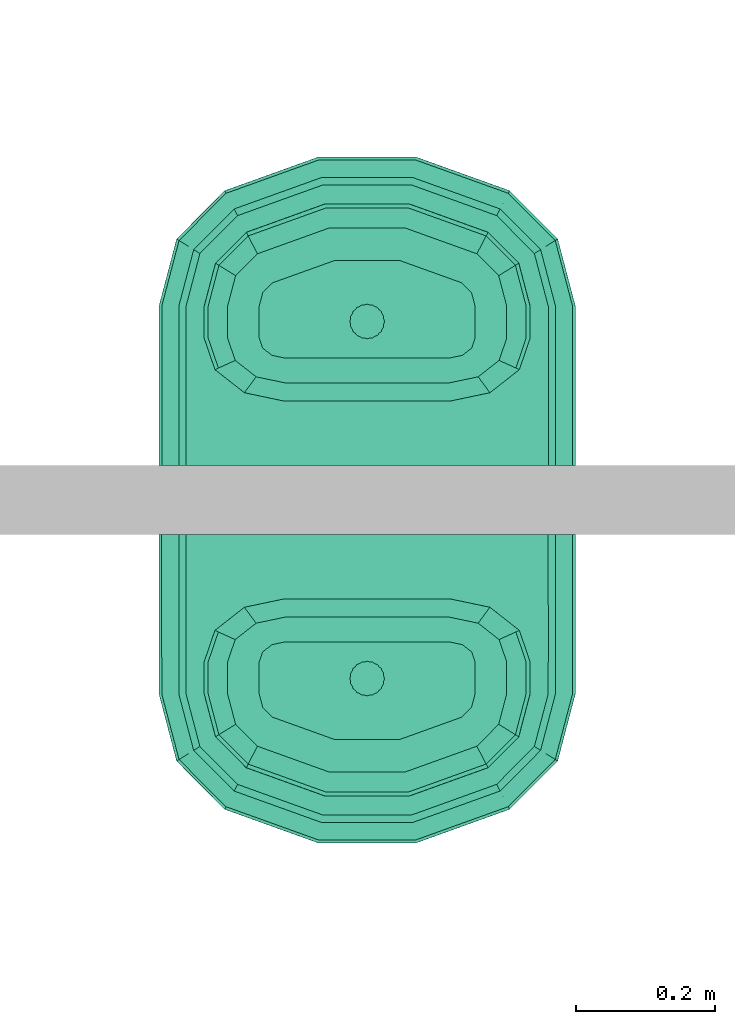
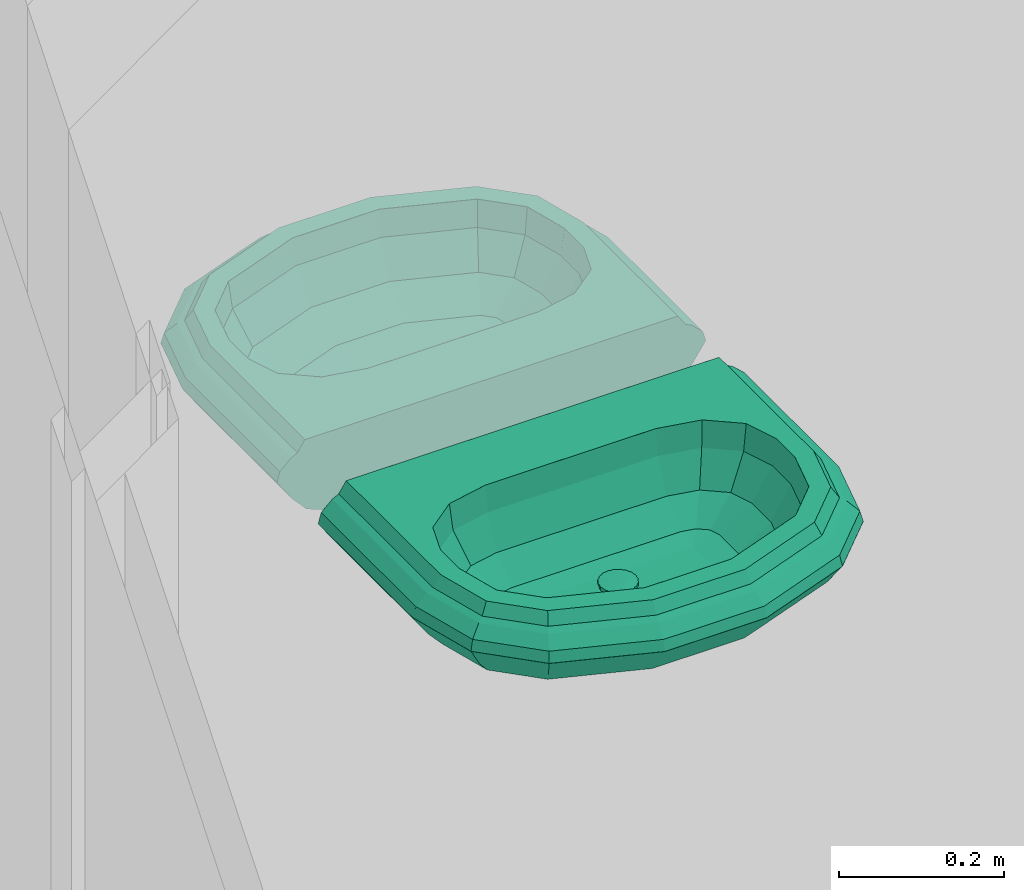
# One storey, part 45 of 48: 2 distribution flow elements.
"""IFC2X3 building model written with IfcOpenShell, lengths in millimetres."""

from ifc_helpers import new_model, entity, si_unit, converted_unit, derived_unit, money_unit, direction, frame, origin_with_axes, place, context, subcontext, project, spatial, open_shell, faceted_brep, surface_model, source, transform, mapped, type_object, element, save


model = new_model("IFC2X3")

# Units and contexts
model_context = context("Model", 3, precision=0.01, world=origin_with_axes(), true_north=direction((0.0, 1.0)))
body_context = subcontext(model_context, "Body", "Model", "MODEL_VIEW")
ifc_project = project(units=[si_unit("LENGTHUNIT", "METRE", prefix="MILLI"), si_unit("AREAUNIT", "SQUARE_METRE"), si_unit("VOLUMEUNIT", "CUBIC_METRE"), converted_unit("PLANEANGLEUNIT", "DEGREE", entity("IfcPlaneAngleMeasure", 0.0174532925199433), si_unit("PLANEANGLEUNIT", "RADIAN"), dimensions=[0, 0, 0, 0, 0, 0, 0]), money_unit("USD"), converted_unit("TIMEUNIT", "Year", entity("IfcTimeMeasure", 31557600.0), si_unit("TIMEUNIT", "SECOND"), dimensions=[0, 0, 1, 0, 0, 0, 0]), si_unit("MASSUNIT", "GRAM", prefix="KILO"), si_unit("THERMODYNAMICTEMPERATUREUNIT", "DEGREE_CELSIUS"), si_unit("LUMINOUSINTENSITYUNIT", "LUMEN"), si_unit("ENERGYUNIT", "JOULE", prefix="MEGA"), derived_unit("THERMALCONDUCTANCEUNIT", [(si_unit("POWERUNIT", "WATT"), 1), (si_unit("LENGTHUNIT", "METRE"), -1), (si_unit("THERMODYNAMICTEMPERATUREUNIT", "KELVIN"), -1)]), derived_unit("SPECIFICHEATCAPACITYUNIT", [(si_unit("ENERGYUNIT", "JOULE"), 1), (si_unit("MASSUNIT", "GRAM", prefix="KILO"), -1), (si_unit("THERMODYNAMICTEMPERATUREUNIT", "KELVIN"), -1)]), derived_unit("MASSDENSITYUNIT", [(si_unit("MASSUNIT", "GRAM", prefix="KILO"), 1), (si_unit("VOLUMEUNIT", "CUBIC_METRE"), -1)])], contexts=[model_context])

# Site, building, storey
site_placement = place(None, origin_with_axes())
site = spatial("IfcSite", under=ifc_project, at=site_placement, Name="Site", CompositionType="ELEMENT")
building_placement = place(site_placement, origin_with_axes())
building = spatial("IfcBuilding", under=site, at=building_placement, Name="Building", CompositionType="ELEMENT")
storey_placement = place(building_placement, frame((0.0, 0.0, 3300.0), z_axis=(0.0, 0.0, 1.0), x_axis=(1.0, 0.0, 0.0)))
storey = spatial("IfcBuildingStorey", under=building, at=storey_placement, Name="1 ETG", CompositionType="ELEMENT", Elevation=3300.0)

# Distribution flow elements
valve_type = type_object("IfcValveType", Name="Servant", PredefinedType="USERDEFINED")
shared_shape = source(origin_with_axes(), body_context, "Body", "SurfaceModel", [
    surface_model("IfcShellBasedSurfaceModel", [(-118.8260869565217, -229.090909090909, 880.0), (-155.5004347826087, -229.090909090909, 885.6030000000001), (-150.3400994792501, -248.7018865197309, 885.6030000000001), (-201.0339130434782, -229.090909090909, 916.175), (-189.4667012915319, -273.050131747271, 916.175), (-136.3112835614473, -262.7940626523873, 885.6030000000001), (-229.0121739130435, -229.090909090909, 962.175), (-213.508226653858, -288.0110260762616, 962.175), (-158.0202400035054, -304.6386188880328, 916.175), (-234.6521739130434, -229.090909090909, 999.9), (-218.3546395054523, -291.0269191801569, 999.9), (-171.3594108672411, -330.3502041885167, 962.175), (-234.7826086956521, -229.090909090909, 1000.0), (-218.4667212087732, -291.0966669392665, 1000.0), (-174.0483887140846, -335.5332762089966, 999.9), (-234.9130434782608, -229.090909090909, 1000.0), (-218.5788029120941, -291.166414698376, 1000.0), (-174.1105759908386, -335.653143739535, 1000.0), (-260.7130434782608, -229.090909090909, 1000.0), (-240.7485638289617, -304.9625214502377, 1000.0), (-174.1727632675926, -335.7730112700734, 1000.0), (-260.8434782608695, -229.090909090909, 1000.0), (-240.8606455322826, -305.0322692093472, 1000.0), (-186.4734066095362, -359.4828088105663, 1000.0), (-260.9739130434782, -229.090909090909, 999.9), (-240.9727272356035, -305.1020169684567, 999.9), (-186.5355938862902, -359.6026763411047, 1000.0), (-271.3017391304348, -229.090909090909, 984.298), (-249.8473565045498, -310.624644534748, 984.298), (-186.5977811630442, -359.722543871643, 999.9), (-280.154347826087, -229.090909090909, 979.6479999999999), (-257.4543417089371, -315.3584249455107, 979.6479999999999), (-191.5217697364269, -369.2136549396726, 984.298), (-295.8195652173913, -229.090909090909, 965.175), (-270.9153542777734, -323.7351308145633, 965.175), (-195.7424202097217, -377.3490642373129, 979.6479999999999), (-299.8408695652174, -229.090909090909, 950.0999999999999), (-274.3708331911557, -325.8854542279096, 950.0999999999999), (-203.2111121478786, -391.7451546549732, 965.175), (-299.971304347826, -229.090909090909, 950.0), (-274.4829148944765, -325.9552019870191, 950.0), (-205.1283458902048, -395.4406706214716, 950.0999999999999), (-299.8408695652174, -229.090909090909, 949.9), (-274.3708331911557, -325.8854542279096, 949.9), (-205.1905331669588, -395.56053815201, 950.0), (-278.1065217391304, -229.090909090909, 918.1), (-255.6946589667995, -314.2633851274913, 918.1), (-205.1283458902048, -395.4406706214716, 949.9), (-258.4943478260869, -229.090909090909, 896.627), (-238.8420540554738, -303.7761120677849, 896.627), (-194.7660799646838, -375.4671440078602, 918.1), (-183.1004347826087, -229.090909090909, 866.162), (-174.0565879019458, -263.460512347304, 866.162), (-185.4156010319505, -357.4438621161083, 896.627), (-118.8260869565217, -229.090909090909, 860.0), (-149.4701113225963, -288.1580321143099, 866.162)], [open_shell([[[0, 1, 2]], [[2, 1, 3, 4]], [[0, 2, 5]], [[4, 3, 6, 7]], [[5, 2, 4, 8]], [[7, 6, 9, 10]], [[8, 4, 7, 11]], [[10, 9, 12, 13]], [[11, 7, 10, 14]], [[13, 12, 15, 16]], [[14, 10, 13, 17]], [[16, 15, 18, 19]], [[17, 13, 16, 20]], [[19, 18, 21, 22]], [[20, 16, 19, 23]], [[22, 21, 24, 25]], [[23, 19, 22, 26]], [[25, 24, 27, 28]], [[26, 22, 25, 29]], [[28, 27, 30, 31]], [[29, 25, 28, 32]], [[31, 30, 33, 34]], [[32, 28, 31, 35]], [[34, 33, 36, 37]], [[35, 31, 34, 38]], [[37, 36, 39, 40]], [[38, 34, 37, 41]], [[40, 39, 42, 43]], [[41, 37, 40, 44]], [[43, 42, 45, 46]], [[44, 40, 43, 47]], [[46, 45, 48, 49]], [[47, 43, 46, 50]], [[49, 48, 51, 52]], [[50, 46, 49, 53]], [[52, 51, 54]], [[53, 49, 52, 55]], [[55, 52, 54]]])]),
    surface_model("IfcShellBasedSurfaceModel", [(118.8260869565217, -229.090909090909, 880.0), (136.3112835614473, -262.7940626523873, 885.6030000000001), (150.3400994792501, -248.7018865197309, 885.6030000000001), (158.0202400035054, -304.6386188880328, 916.175), (189.4667012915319, -273.050131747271, 916.175), (155.5004347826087, -229.090909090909, 885.6030000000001), (171.3594108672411, -330.3502041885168, 962.175), (213.508226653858, -288.0110260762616, 962.175), (201.0339130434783, -229.0909090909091, 916.175), (174.0483887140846, -335.5332762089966, 999.9), (218.3546395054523, -291.026919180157, 999.9), (229.0121739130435, -229.0909090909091, 962.175), (174.1105759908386, -335.653143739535, 1000.0), (218.4667212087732, -291.0966669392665, 1000.0), (234.6521739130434, -229.0909090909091, 999.9), (174.1727632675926, -335.7730112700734, 1000.0), (218.5788029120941, -291.166414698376, 1000.0), (234.7826086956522, -229.0909090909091, 1000.0), (186.4734066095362, -359.4828088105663, 1000.0), (240.7485638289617, -304.9625214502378, 1000.0), (234.9130434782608, -229.0909090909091, 1000.0), (186.5355938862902, -359.6026763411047, 1000.0), (240.8606455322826, -305.0322692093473, 1000.0), (260.7130434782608, -229.0909090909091, 1000.0), (186.5977811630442, -359.7225438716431, 999.9), (240.9727272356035, -305.1020169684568, 999.9), (260.8434782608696, -229.0909090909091, 1000.0), (191.5217697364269, -369.2136549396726, 984.298), (249.8473565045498, -310.6246445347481, 984.298), (260.9739130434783, -229.0909090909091, 999.9), (195.7424202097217, -377.3490642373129, 979.6479999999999), (257.4543417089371, -315.3584249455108, 979.6479999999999), (271.3017391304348, -229.0909090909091, 984.298), (203.2111121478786, -391.7451546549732, 965.175), (270.9153542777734, -323.7351308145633, 965.175), (280.154347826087, -229.0909090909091, 979.6479999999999), (205.1283458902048, -395.4406706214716, 950.0999999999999), (274.3708331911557, -325.8854542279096, 950.0999999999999), (295.8195652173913, -229.0909090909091, 965.175), (205.1905331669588, -395.56053815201, 950.0), (274.4829148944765, -325.9552019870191, 950.0), (299.8408695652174, -229.0909090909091, 950.0999999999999), (205.1283458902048, -395.4406706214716, 949.9), (274.3708331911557, -325.8854542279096, 949.9), (299.971304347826, -229.0909090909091, 950.0), (194.7660799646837, -375.4671440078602, 918.1), (255.6946589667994, -314.2633851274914, 918.1), (299.8408695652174, -229.0909090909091, 949.9), (185.4156010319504, -357.4438621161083, 896.627), (238.8420540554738, -303.776112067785, 896.627), (278.1065217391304, -229.0909090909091, 918.1), (149.4701113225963, -288.1580321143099, 866.162), (174.0565879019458, -263.460512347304, 866.162), (258.4943478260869, -229.0909090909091, 896.627), (118.8260869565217, -229.090909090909, 860.0), (183.1004347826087, -229.090909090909, 866.162)], [open_shell([[[0, 1, 2]], [[2, 1, 3, 4]], [[0, 2, 5]], [[4, 3, 6, 7]], [[5, 2, 4, 8]], [[7, 6, 9, 10]], [[8, 4, 7, 11]], [[10, 9, 12, 13]], [[11, 7, 10, 14]], [[13, 12, 15, 16]], [[14, 10, 13, 17]], [[16, 15, 18, 19]], [[17, 13, 16, 20]], [[19, 18, 21, 22]], [[20, 16, 19, 23]], [[22, 21, 24, 25]], [[23, 19, 22, 26]], [[25, 24, 27, 28]], [[26, 22, 25, 29]], [[28, 27, 30, 31]], [[29, 25, 28, 32]], [[31, 30, 33, 34]], [[32, 28, 31, 35]], [[34, 33, 36, 37]], [[35, 31, 34, 38]], [[37, 36, 39, 40]], [[38, 34, 37, 41]], [[40, 39, 42, 43]], [[41, 37, 40, 44]], [[43, 42, 45, 46]], [[44, 40, 43, 47]], [[46, 45, 48, 49]], [[47, 43, 46, 50]], [[49, 48, 51, 52]], [[50, 46, 49, 53]], [[52, 51, 54]], [[53, 49, 52, 55]], [[55, 52, 54]]])]),
    surface_model("IfcShellBasedSurfaceModel", [(-41.10372390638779, -257.0233893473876, 880.0), (-118.8398858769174, -229.0668508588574, 880.0), (-136.325082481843, -262.7700044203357, 885.6030000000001), (-47.15141310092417, -294.8398552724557, 885.6030000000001), (-158.0340389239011, -304.6145606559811, 916.175), (-54.65999446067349, -341.7913440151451, 916.175), (41.10329481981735, -257.0234643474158, 880.0), (47.15092088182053, -294.8399413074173, 885.6030000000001), (-171.3732097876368, -330.3261459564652, 962.175), (-59.27367775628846, -370.6409081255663, 962.175), (54.65942385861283, -341.7914437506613, 916.175), (118.8395034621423, -229.0670677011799, 880.0), (136.3246438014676, -262.7702531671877, 885.6030000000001), (-174.0621876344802, -335.509217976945, 999.9), (-60.2037274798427, -376.4565498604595, 999.9), (59.27305899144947, -370.6410162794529, 962.175), (158.033530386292, -304.614849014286, 916.175), (-174.1243749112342, -335.6290855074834, 1000.0), (-60.22523649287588, -376.5910466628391, 1000.0), (60.20309900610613, -376.4566597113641, 999.9), (171.3726583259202, -330.3264586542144, 962.175), (-174.1865621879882, -335.7489530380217, 1000.0), (-60.24674550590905, -376.7255434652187, 1000.0), (60.2246077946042, -376.5911565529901, 1000.0), (174.061627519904, -335.5095355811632, 999.9), (-186.4996429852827, -359.4827240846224, 1000.0), (-64.5055300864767, -403.3559103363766, 1000.0), (60.24611658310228, -376.7256533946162, 1000.0), (174.1238145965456, -335.629403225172, 1000.0), (-186.5618302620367, -359.6025916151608, 1000.0), (-64.52703909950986, -403.4904071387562, 1000.0), (64.50485670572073, -403.3560280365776, 1000.0), (174.1860016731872, -335.749270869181, 1000.0), (-186.6240175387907, -359.7224591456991, 999.9), (-64.54854811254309, -403.6249039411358, 999.9), (64.52636549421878, -403.4905248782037, 1000.0), (186.4990428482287, -359.4830643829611, 1000.0), (-191.5355686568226, -369.189596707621, 984.298), (-66.24732996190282, -414.2474613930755, 984.298), (64.54787428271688, -403.6250217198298, 999.9), (186.5612299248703, -359.6029320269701, 1000.0), (-195.7562191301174, -377.3250060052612, 979.6479999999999), (-67.70714667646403, -423.3757593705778, 979.6479999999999), (66.24663839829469, -414.2475822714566, 984.298), (186.623417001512, -359.7227996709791, 999.9), (-203.2249110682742, -391.7210964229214, 965.175), (-70.29037914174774, -439.528825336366, 965.175), (67.70643987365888, -423.3758829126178, 979.6479999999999), (191.5349523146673, -369.1899461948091, 984.298), (-205.1421448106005, -395.4166123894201, 950.0999999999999), (-70.95350201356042, -443.6753617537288, 950.0999999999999), (70.28964537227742, -439.5289535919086, 965.175), (195.7555892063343, -377.3253631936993, 979.6479999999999), (-205.2043320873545, -395.5364799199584, 950.0), (-70.97501102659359, -443.8098585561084, 950.0), (70.95276132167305, -443.6754912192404, 950.0999999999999), (203.2242571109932, -391.7214672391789, 965.175), (-205.1421448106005, -395.4166123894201, 949.9), (-70.95350201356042, -443.6753617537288, 949.9), (70.9742701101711, -443.8099880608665, 950.0), (205.1414846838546, -395.4169867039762, 950.0999999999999), (-194.7798788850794, -375.4430857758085, 918.1), (-67.36945517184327, -421.2641595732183, 918.1), (70.95276132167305, -443.6754912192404, 949.9), (205.2036717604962, -395.5368543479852, 950.0), (-185.4293999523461, -357.4198038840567, 896.627), (-64.13535997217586, -401.0412203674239, 896.627), (67.36875189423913, -421.2642824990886, 918.1), (205.1414846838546, -395.4169867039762, 949.9), (-149.483910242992, -288.1339738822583, 866.162), (-51.70272025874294, -323.2993786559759, 866.162), (64.13469045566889, -401.041337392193, 896.627), (194.7792521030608, -375.4434411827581, 918.1), (-118.8398858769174, -229.0668508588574, 860.0), (-41.10372390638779, -257.0233893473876, 860.0), (51.70218052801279, -323.2994729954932, 866.162), (185.4288032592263, -357.4201422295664, 896.627), (41.10329481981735, -257.0234643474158, 860.0), (149.4834292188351, -288.13424663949, 866.162), (118.8395034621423, -229.0670677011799, 860.0)], [open_shell([[[0, 1, 2, 3]], [[3, 2, 4, 5]], [[6, 0, 3, 7]], [[5, 4, 8, 9]], [[7, 3, 5, 10]], [[11, 6, 7, 12]], [[9, 8, 13, 14]], [[10, 5, 9, 15]], [[12, 7, 10, 16]], [[14, 13, 17, 18]], [[15, 9, 14, 19]], [[16, 10, 15, 20]], [[18, 17, 21, 22]], [[19, 14, 18, 23]], [[20, 15, 19, 24]], [[22, 21, 25, 26]], [[23, 18, 22, 27]], [[24, 19, 23, 28]], [[26, 25, 29, 30]], [[27, 22, 26, 31]], [[28, 23, 27, 32]], [[30, 29, 33, 34]], [[31, 26, 30, 35]], [[32, 27, 31, 36]], [[34, 33, 37, 38]], [[35, 30, 34, 39]], [[36, 31, 35, 40]], [[38, 37, 41, 42]], [[39, 34, 38, 43]], [[40, 35, 39, 44]], [[42, 41, 45, 46]], [[43, 38, 42, 47]], [[44, 39, 43, 48]], [[46, 45, 49, 50]], [[47, 42, 46, 51]], [[48, 43, 47, 52]], [[50, 49, 53, 54]], [[51, 46, 50, 55]], [[52, 47, 51, 56]], [[54, 53, 57, 58]], [[55, 50, 54, 59]], [[56, 51, 55, 60]], [[58, 57, 61, 62]], [[59, 54, 58, 63]], [[60, 55, 59, 64]], [[62, 61, 65, 66]], [[63, 58, 62, 67]], [[64, 59, 63, 68]], [[66, 65, 69, 70]], [[67, 62, 66, 71]], [[68, 63, 67, 72]], [[70, 69, 73, 74]], [[71, 66, 70, 75]], [[72, 67, 71, 76]], [[75, 70, 74, 77]], [[76, 71, 75, 78]], [[78, 75, 77, 79]]])]),
    surface_model("IfcShellBasedSurfaceModel", [(-118.8260869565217, -183.2727272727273, 860.0), (-183.1004347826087, -183.2727272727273, 866.162), (-183.1004347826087, -229.0909090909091, 866.162), (-118.8260869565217, -229.0909090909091, 860.0), (-258.4943478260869, -183.2727272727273, 896.627), (-258.4943478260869, -229.0909090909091, 896.627), (-278.1065217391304, -183.2727272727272, 918.1), (-278.1065217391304, -229.0909090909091, 918.1), (-299.971304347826, -183.2727272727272, 950.0), (-299.971304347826, -229.090909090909, 950.0), (-295.8195652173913, -183.2727272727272, 965.175), (-295.8195652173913, -229.090909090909, 965.175), (-280.154347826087, -183.2727272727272, 979.6479999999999), (-280.154347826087, -229.090909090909, 979.6479999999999), (-271.3017391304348, -183.2727272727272, 984.298), (-271.3017391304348, -229.090909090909, 984.298), (-260.8434782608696, -183.2727272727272, 1000.0), (-260.8434782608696, -229.090909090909, 1000.0), (-234.7826086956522, -183.2727272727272, 1000.0), (-234.7826086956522, -229.090909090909, 1000.0), (-229.0121739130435, -183.2727272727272, 962.175), (-229.0121739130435, -229.0909090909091, 962.175), (-201.0339130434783, -183.2727272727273, 916.175), (-201.0339130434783, -229.0909090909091, 916.175), (-155.5004347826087, -183.2727272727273, 885.6030000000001), (-155.5004347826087, -229.0909090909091, 885.6030000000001), (-118.8260869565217, -183.2727272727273, 880.0), (-118.8260869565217, -229.0909090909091, 880.0)], [open_shell([[[0, 1, 2, 3]], [[1, 4, 5, 2]], [[4, 6, 7, 5]], [[6, 8, 9, 7]], [[8, 10, 11, 9]], [[10, 12, 13, 11]], [[12, 14, 15, 13]], [[14, 16, 17, 15]], [[16, 18, 19, 17]], [[18, 20, 21, 19]], [[20, 22, 23, 21]], [[22, 24, 25, 23]], [[24, 26, 27, 25]]])]),
    surface_model("IfcShellBasedSurfaceModel", [(118.8260869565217, -183.2727272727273, 860.0), (118.8260869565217, -229.0909090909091, 860.0), (183.1004347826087, -229.0909090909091, 866.162), (183.1004347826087, -183.2727272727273, 866.162), (258.4943478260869, -229.0909090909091, 896.627), (258.4943478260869, -183.2727272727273, 896.627), (278.1065217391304, -229.0909090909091, 918.1), (278.1065217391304, -183.2727272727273, 918.1), (299.971304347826, -229.0909090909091, 950.0), (299.971304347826, -183.2727272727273, 950.0), (295.8195652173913, -229.0909090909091, 965.175), (295.8195652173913, -183.2727272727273, 965.175), (280.154347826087, -229.0909090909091, 979.6479999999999), (280.154347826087, -183.2727272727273, 979.6479999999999), (271.3017391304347, -229.0909090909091, 984.298), (271.3017391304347, -183.2727272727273, 984.298), (260.8434782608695, -229.0909090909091, 1000.0), (260.8434782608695, -183.2727272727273, 1000.0), (234.7826086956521, -229.0909090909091, 1000.0), (234.7826086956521, -183.2727272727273, 1000.0), (229.0121739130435, -229.0909090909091, 962.175), (229.0121739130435, -183.2727272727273, 962.175), (201.0339130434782, -229.0909090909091, 916.175), (201.0339130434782, -183.2727272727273, 916.175), (155.5004347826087, -229.0909090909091, 885.6030000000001), (155.5004347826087, -183.2727272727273, 885.6030000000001), (118.8260869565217, -229.0909090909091, 880.0), (118.8260869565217, -183.2727272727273, 880.0)], [open_shell([[[0, 1, 2, 3]], [[3, 2, 4, 5]], [[5, 4, 6, 7]], [[7, 6, 8, 9]], [[9, 8, 10, 11]], [[11, 10, 12, 13]], [[13, 12, 14, 15]], [[15, 14, 16, 17]], [[17, 16, 18, 19]], [[19, 18, 20, 21]], [[21, 20, 22, 23]], [[23, 22, 24, 25]], [[25, 24, 26, 27]]])]),
    surface_model("IfcShellBasedSurfaceModel", [(-118.8260869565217, 0.0, 860.0), (-183.1004347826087, 0.0, 866.162), (-183.1004347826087, -183.2727272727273, 866.162), (-118.8260869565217, -183.2727272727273, 860.0), (-258.4943478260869, 0.0, 896.627), (-258.4943478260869, -183.2727272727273, 896.627), (-278.1065217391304, 0.0, 918.1), (-278.1065217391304, -183.2727272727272, 918.1), (-299.971304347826, 0.0, 950.0), (-299.971304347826, -183.2727272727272, 950.0), (-295.8195652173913, 0.0, 965.175), (-295.8195652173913, -183.2727272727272, 965.175), (-280.154347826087, 0.0, 979.6479999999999), (-280.154347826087, -183.2727272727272, 979.6479999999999), (-271.3017391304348, 0.0, 984.298), (-271.3017391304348, -183.2727272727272, 984.298), (-260.8434782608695, 0.0, 1000.0), (-260.8434782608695, -183.2727272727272, 1000.0)], [open_shell([[[0, 1, 2, 3]], [[1, 4, 5, 2]], [[4, 6, 7, 5]], [[6, 8, 9, 7]], [[8, 10, 11, 9]], [[10, 12, 13, 11]], [[12, 14, 15, 13]], [[14, 16, 17, 15]]])]),
    surface_model("IfcShellBasedSurfaceModel", [(118.8260869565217, 0.0, 860.0), (118.8260869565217, -183.2727272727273, 860.0), (183.1004347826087, -183.2727272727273, 866.162), (183.1004347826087, 0.0, 866.162), (258.4943478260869, -183.2727272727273, 896.627), (258.4943478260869, 0.0, 896.627), (278.1065217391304, -183.2727272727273, 918.1), (278.1065217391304, 0.0, 918.1), (299.971304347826, -183.2727272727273, 950.0), (299.971304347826, 0.0, 950.0), (295.8195652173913, -183.2727272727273, 965.175), (295.8195652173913, 0.0, 965.175), (280.154347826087, -183.2727272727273, 979.6479999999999), (280.154347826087, 0.0, 979.6479999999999), (271.3017391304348, -183.2727272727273, 984.298), (271.3017391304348, 0.0, 984.298), (260.8434782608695, -183.2727272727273, 1000.0), (260.8434782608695, 0.0, 1000.0)], [open_shell([[[0, 1, 2, 3]], [[3, 2, 4, 5]], [[5, 4, 6, 7]], [[7, 6, 8, 9]], [[9, 8, 10, 11]], [[11, 10, 12, 13]], [[13, 12, 14, 15]], [[15, 14, 16, 17]]])]),
    surface_model("IfcShellBasedSurfaceModel", [(-118.8260869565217, 0.0, 860.0), (118.8260869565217, 0.0, 860.0), (118.8260869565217, -229.090909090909, 860.0), (41.0982368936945, -257.0388174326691, 860.0), (-41.09823689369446, -257.0388174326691, 860.0), (-118.8260869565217, -229.090909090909, 860.0)], [open_shell([[[0, 1, 2, 3, 4, 5]]])]),
    surface_model("IfcShellBasedSurfaceModel", [(-118.8379695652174, 0.0, 860.0), (-183.118744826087, 0.0, 866.1626162), (-258.5201972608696, 0.0, 896.6306627), (-278.1343323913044, 0.0, 918.10581), (-300.0013014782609, 0.0, 950.009), (-295.849147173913, 0.0, 965.1855175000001), (-280.1823632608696, 0.0, 979.6599647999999), (-271.3288693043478, 0.0, 984.3104298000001), (-260.8695626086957, 0.0, 1000.014), (260.8695626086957, 0.0, 1000.014), (271.3288693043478, 0.0, 984.3104298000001), (280.1823632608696, 0.0, 979.6599647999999), (295.849147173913, 0.0, 965.1855175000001), (300.0013014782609, 0.0, 950.009), (278.1343323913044, 0.0, 918.10581), (258.5201972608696, 0.0, 896.6306627), (183.118744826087, 0.0, 866.1626162), (118.8379695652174, 0.0, 860.0)], [open_shell([[[0, 1, 2, 3, 4, 5, 6, 7, 8, 9, 10, 11, 12, 13, 14, 15, 16, 17]]])]),
    surface_model("IfcShellBasedSurfaceModel", [(-118.8260869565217, -182.7272727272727, 880.0), (118.8260869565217, -182.7272727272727, 880.0), (118.8260869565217, -229.090909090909, 880.0), (41.0982368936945, -257.0388174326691, 880.0), (-41.09823689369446, -257.0388174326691, 880.0), (-118.8260869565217, -229.090909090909, 880.0), (22.82608695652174, -207.1363636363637, 880.0), (21.70889874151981, -199.762094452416, 880.0), (18.46669226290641, -193.1096701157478, 880.0), (13.41683728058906, -187.8302762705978, 880.0), (7.053648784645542, -184.4406967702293, 880.0), (0.0, -183.2727272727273, 880.0), (-7.053648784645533, -184.4406967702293, 880.0), (-13.41683728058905, -187.8302762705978, 880.0), (-18.4666922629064, -193.1096701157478, 880.0), (-21.70889874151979, -199.762094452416, 880.0), (-22.82608695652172, -207.1363636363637, 880.0), (-21.7088987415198, -214.5106328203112, 880.0), (-18.4666922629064, -221.1630571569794, 880.0), (-13.41683728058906, -226.4424510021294, 880.0), (-7.053648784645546, -229.8320305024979, 880.0), (0.0, -231.0, 880.0), (7.05364878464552, -229.832030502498, 880.0), (13.41683728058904, -226.4424510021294, 880.0), (18.46669226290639, -221.1630571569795, 880.0), (21.70889874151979, -214.5106328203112, 880.0)], [open_shell([[[0, 1, 2, 3, 4, 5], [6, 7, 8, 9, 10, 11, 12, 13, 14, 15, 16, 17, 18, 19, 20, 21, 22, 23, 24, 25]]])]),
    surface_model("IfcShellBasedSurfaceModel", [(-260.8695652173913, -183.2391344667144, 1000.0), (-260.8695652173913, 4.141527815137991e-07, 1000.0), (260.8695652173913, 4.141527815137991e-07, 1000.0), (260.8695652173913, -183.2391344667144, 1000.0), (234.7826086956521, -183.2391344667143, 1000.0), (219.2473805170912, -137.7618617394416, 1000.0), (176.8043478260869, -104.4701875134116, 1000.0), (118.8260869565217, -92.28458901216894, 1000.0), (-118.8260869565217, -92.28458901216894, 1000.0), (-176.8043478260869, -104.4701875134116, 1000.0), (-219.2473805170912, -137.7618617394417, 1000.0), (-234.7826086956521, -183.2391344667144, 1000.0)], [open_shell([[[0, 1, 2, 3, 4, 5, 6, 7, 8, 9, 10, 11]]])]),
    surface_model("IfcShellBasedSurfaceModel", [(-176.8043478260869, -104.5037803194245, 1000.0), (-118.8260869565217, -92.3181818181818, 1000.0), (-118.8260869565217, -96.84442376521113, 962.175), (-173.9191304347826, -108.4236208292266, 962.175), (-118.8260869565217, -118.7901492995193, 916.175), (-159.9299999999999, -127.4291766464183, 916.175), (-219.2473805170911, -137.7954545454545, 1000.0), (-214.2500374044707, -140.0585755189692, 962.175), (-118.8260869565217, -154.5059223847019, 885.6030000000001), (-137.1632608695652, -158.3599434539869, 885.6030000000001), (-190.0201527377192, -151.0314382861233, 916.175), (-234.7826086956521, -183.2727272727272, 1000.0), (-229.0121739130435, -183.2727272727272, 962.175), (-118.8260869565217, -183.2727272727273, 880.0), (-150.5870038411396, -168.8893248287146, 885.6030000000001), (-201.0339130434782, -183.2727272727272, 916.175), (-155.5004347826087, -183.2727272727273, 885.6030000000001)], [open_shell([[[0, 1, 2, 3]], [[3, 2, 4, 5]], [[6, 0, 3, 7]], [[5, 4, 8, 9]], [[7, 3, 5, 10]], [[11, 6, 7, 12]], [[9, 8, 13]], [[10, 5, 9, 14]], [[12, 7, 10, 15]], [[14, 9, 13]], [[15, 10, 14, 16]], [[16, 14, 13]]])]),
    surface_model("IfcShellBasedSurfaceModel", [(219.2473805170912, -137.7954545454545, 1000.0), (234.7826086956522, -183.2727272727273, 1000.0), (229.0121739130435, -183.2727272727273, 962.175), (214.2500374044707, -140.0585755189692, 962.175), (201.0339130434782, -183.2727272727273, 916.175), (190.0201527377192, -151.0314382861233, 916.175), (176.8043478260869, -104.5037803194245, 1000.0), (173.9191304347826, -108.4236208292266, 962.175), (155.5004347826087, -183.2727272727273, 885.6030000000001), (150.5870038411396, -168.8893248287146, 885.6030000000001), (159.93, -127.4291766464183, 916.175), (118.8260869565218, -92.3181818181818, 1000.0), (118.8260869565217, -96.84442376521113, 962.175), (118.8260869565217, -183.2727272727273, 880.0), (137.1632608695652, -158.3599434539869, 885.6030000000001), (118.8260869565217, -118.7901492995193, 916.175), (118.8260869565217, -154.5059223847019, 885.6030000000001)], [open_shell([[[0, 1, 2, 3]], [[3, 2, 4, 5]], [[6, 0, 3, 7]], [[5, 4, 8, 9]], [[7, 3, 5, 10]], [[11, 6, 7, 12]], [[9, 8, 13]], [[10, 5, 9, 14]], [[12, 7, 10, 15]], [[14, 9, 13]], [[15, 10, 14, 16]], [[16, 14, 13]]])]),
    surface_model("IfcShellBasedSurfaceModel", [(118.8260869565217, -92.3181818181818, 1000.0), (118.8260869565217, -96.84442376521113, 962.175), (-118.8260869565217, -96.84442376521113, 962.175), (-118.8260869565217, -92.3181818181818, 1000.0), (118.8260869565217, -118.7901492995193, 916.175), (-118.8260869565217, -118.7901492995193, 916.175), (118.8260869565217, -154.5059223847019, 885.6030000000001), (-118.8260869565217, -154.5059223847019, 885.6030000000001), (118.8260869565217, -183.2727272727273, 880.0), (-118.8260869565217, -183.2727272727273, 880.0)], [open_shell([[[0, 1, 2, 3]], [[1, 4, 5, 2]], [[4, 6, 7, 5]], [[6, 8, 9, 7]]])]),
    faceted_brep([(20.22542485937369, -221.8296313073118, 881.0), (7.725424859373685, -230.9114129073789, 881.0), (-7.725424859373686, -230.9114129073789, 881.0), (-20.22542485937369, -221.8296313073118, 881.0), (-25.0, -207.135, 881.0), (-20.22542485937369, -192.4403686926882, 881.0), (-7.725424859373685, -183.3585870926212, 881.0), (7.725424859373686, -183.3585870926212, 881.0), (20.22542485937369, -192.4403686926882, 881.0), (25.0, -207.135, 881.0), (20.22542485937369, -221.8296313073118, 886.0), (7.725424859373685, -230.9114129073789, 886.0), (-7.725424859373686, -230.9114129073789, 886.0), (-20.22542485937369, -221.8296313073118, 886.0), (-25.0, -207.135, 886.0), (-20.22542485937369, -192.4403686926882, 886.0), (-7.725424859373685, -183.3585870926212, 886.0), (7.725424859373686, -183.3585870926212, 886.0), (20.22542485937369, -192.4403686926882, 886.0), (25.0, -207.135, 886.0)], [[[0, 1, 2, 3, 4, 5, 6, 7, 8, 9]], [[1, 0, 10, 11]], [[2, 1, 11, 12]], [[3, 2, 12, 13]], [[4, 3, 13, 14]], [[5, 4, 14, 15]], [[6, 5, 15, 16]], [[7, 6, 16, 17]], [[8, 7, 17, 18]], [[9, 8, 18, 19]], [[0, 9, 19, 10]], [[10, 19, 18, 17, 16, 15, 14, 13, 12, 11]]]),
    surface_model("IfcShellBasedSurfaceModel", [(0.0, -207.135, 888.0), (0.0, -194.51309443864, 887.4975737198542), (-7.418969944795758, -196.9236638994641, 887.4975737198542), (7.418969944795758, -196.9236638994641, 887.4975737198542), (0.0, -182.135, 886.0), (-14.69463130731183, -186.9095751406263, 886.0), (-12.00414553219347, -203.2346166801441, 887.4975737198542), (12.00414553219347, -203.2346166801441, 887.4975737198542), (14.69463130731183, -186.9095751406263, 886.0), (-23.77641290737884, -199.4095751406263, 886.0), (-12.00414553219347, -211.0353833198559, 887.4975737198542), (12.00414553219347, -211.0353833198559, 887.4975737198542), (23.77641290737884, -199.4095751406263, 886.0), (-23.77641290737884, -214.8604248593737, 886.0), (-7.418969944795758, -217.3463361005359, 887.4975737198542), (7.418969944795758, -217.3463361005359, 887.4975737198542), (23.77641290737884, -214.8604248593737, 886.0), (-14.69463130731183, -227.3604248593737, 886.0), (0.0, -219.75690556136, 887.4975737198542), (14.69463130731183, -227.3604248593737, 886.0), (0.0, -232.135, 886.0)], [open_shell([[[0, 1, 2]], [[0, 3, 1]], [[2, 1, 4, 5]], [[0, 2, 6]], [[0, 7, 3]], [[1, 3, 8, 4]], [[6, 2, 5, 9]], [[0, 6, 10]], [[0, 11, 7]], [[3, 7, 12, 8]], [[10, 6, 9, 13]], [[0, 10, 14]], [[0, 15, 11]], [[7, 11, 16, 12]], [[14, 10, 13, 17]], [[0, 14, 18]], [[0, 18, 15]], [[11, 15, 19, 16]], [[18, 14, 17, 20]], [[15, 18, 20, 19]]])]),
])
for number, where, z_axis, x_axis, name in (
    (1, (64989.02225882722, 27819.78466048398, 100.0000000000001), (0.0, 0.0, 1.0), (-0.9999999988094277, -4.879697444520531e-05, 0.0), "FU - 001"),
    (2, (64988.95638291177, 27719.77000890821, 100.0000000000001), (0.0, 0.0, 1.0), (0.9999999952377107, 9.759394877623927e-05, 0.0), "FU - 001"),
):
    element("IfcDistributionFlowElement", number, at=place(storey_placement, frame(where, z_axis=z_axis, x_axis=x_axis)), inside=storey, type_object=valve_type, Name=name, ObjectType="Distribution Flow Element", context=body_context, shape_type="MappedRepresentation", body=[
        mapped(shared_shape, transform((0.0, 0.0, 0.0))),
    ])

save(model, "model.ifc")
